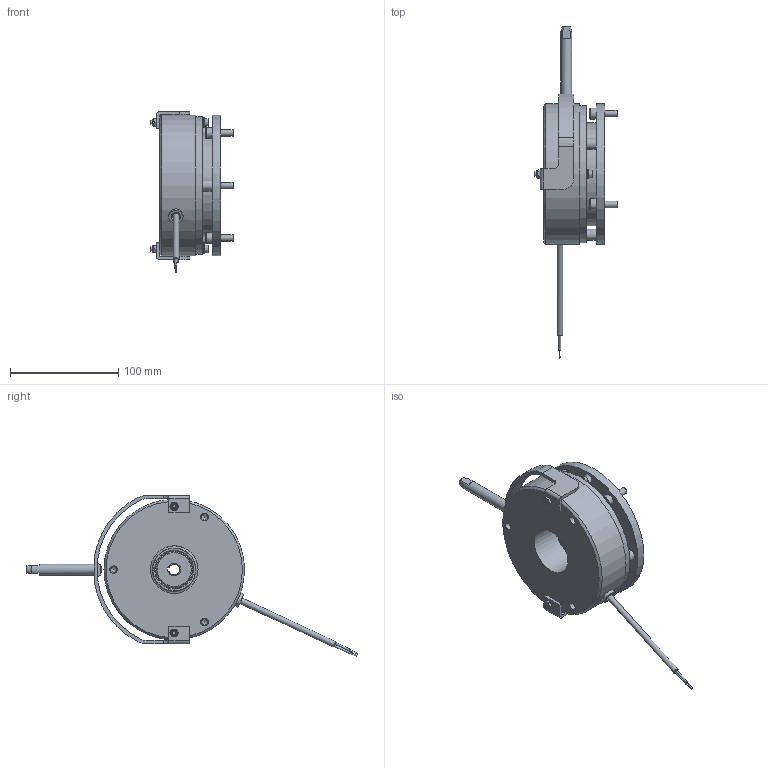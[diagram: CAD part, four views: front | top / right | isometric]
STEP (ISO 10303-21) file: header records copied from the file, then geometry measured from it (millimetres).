
FILE_DESCRIPTION(/* description */ (''),/* implementation_level */ '2;1');
FILE_NAME(/* name */ 'C:\SapWorkDir\Inventor\IP1\ConvertTempPath\5028672_IPT_000.ipt.stp',/* time_stamp */ '2020-09-16T15:23:35+02:00',/* author */ ('STRATE'),/* organization */ (''),/* preprocessor_version */ 'ST-DEVELOPER v17',/* originating_system */ 'Autodesk Inventor 2018',/* authorisation */ '');
FILE_SCHEMA (('AUTOMOTIVE_DESIGN { 1 0 10303 214 3 1 1 }'));
Length unit declared in the file: millimetre
Products named in the file (1): 5028672
Bounding box: 77.2 x 306.79 x 148.81 mm (x, y, z)
Volume: 634740.7 mm3; surface area: 132428.8 mm2
Topology: 2 solids, 2 shells, 596 faces, 1653 edges, 1114 vertices
Faces by surface type: cylinder 304, plane 181, cone 86, torus 23, bspline 2
Full cylindrical faces by diameter (mm): 1 x2, 1.85 x2, 4 x4, 4.134 x2, 4.3 x2, 5 x2, 5.3 x1, 5.387 x3, 5.4 x2, 5.95 x2, 6 x7, 6.4 x3, 6.6 x7, 7 x5, 7.3 x2, 9 x2, 9.2 x2, 10 x7, 10.8 x6, 11.3 x3, 13.2 x1, 44 x3, 65.7 x2, 66.1 x2, 95 x1, 127 x1, 130 x2
Entity records: 22813 total; most frequent: CARTESIAN_POINT 6957, ORIENTED_EDGE 3294, DIRECTION 3088, EDGE_CURVE 1647, AXIS2_PLACEMENT_3D 1253, VERTEX_POINT 1114, EDGE_LOOP 699, CIRCLE 634
